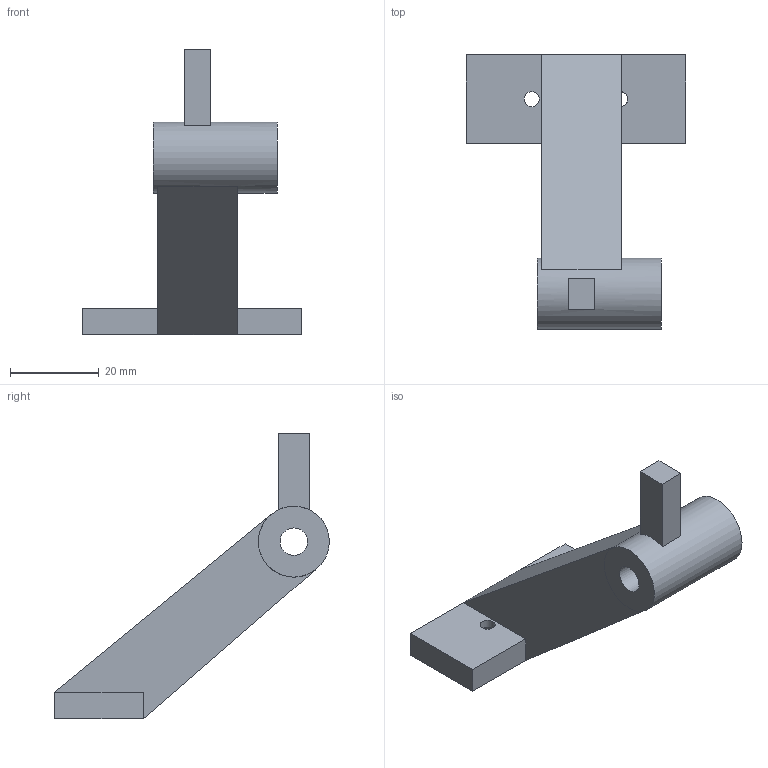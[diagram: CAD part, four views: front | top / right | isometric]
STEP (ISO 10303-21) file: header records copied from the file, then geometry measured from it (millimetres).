
FILE_DESCRIPTION(('Open CASCADE Model'),'2;1');
FILE_NAME('Open CASCADE Shape Model','2026-10-17T21:54:43',('Author'),( 'Open CASCADE'),'Open CASCADE STEP processor 7.9','Open CASCADE 7.9' ,'Unknown');
FILE_SCHEMA(('AUTOMOTIVE_DESIGN { 1 0 10303 214 1 1 1 1 }'));
Length unit declared in the file: millimetre
Products named in the file (1): Open CASCADE STEP translator 7.9 16
Bounding box: 49.5 x 62 x 64.5 mm (x, y, z)
Volume: 25315.2 mm3; surface area: 8791.4 mm2
Topology: 1 solids, 1 shells, 36 faces, 102 edges, 70 vertices
Faces by surface type: plane 30, cylinder 6
Full cylindrical faces by diameter (mm): 3.4 x4, 6.2 x1, 16 x1
Entity records: 2590 total; most frequent: CARTESIAN_POINT 525, DIRECTION 388, LINE 242, VECTOR 242, ORIENTED_EDGE 204, PCURVE 204, DEFINITIONAL_REPRESENTATION 204, EDGE_CURVE 102
